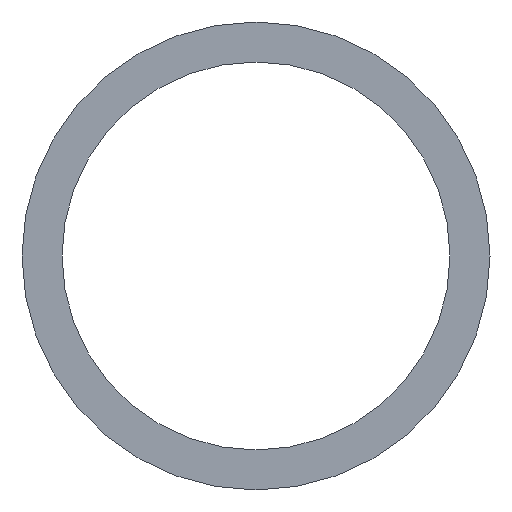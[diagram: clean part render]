
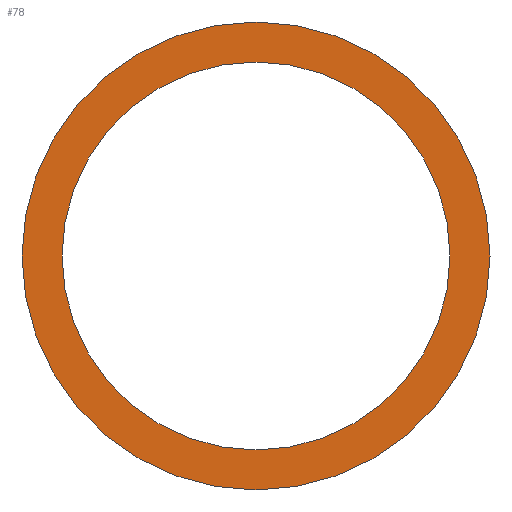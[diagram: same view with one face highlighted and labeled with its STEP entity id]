
A CAD part, front view. The second image highlights one B-rep face of the part: STEP entity #78.
In plain terms, the highlighted planar face has unit normal (0, -1, 0).
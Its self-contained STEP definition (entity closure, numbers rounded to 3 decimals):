
#4 = CARTESIAN_POINT ( 'NONE',  ( -85., 2037., 2995.85 ) ) ;
#9 = CIRCLE ( 'NONE', #187, 13.45 ) ;
#17 = CARTESIAN_POINT ( 'NONE',  ( -85., 2037., 2995.85 ) ) ;
#31 = CIRCLE ( 'NONE', #166, 13.45 ) ;
#36 = CARTESIAN_POINT ( 'NONE',  ( -73.85, 2037., 2995.85 ) ) ;
#37 = DIRECTION ( 'NONE',  ( 0., 1., 0. ) ) ;
#39 = ORIENTED_EDGE ( 'NONE', *, *, #203, .F. ) ;
#49 = EDGE_LOOP ( 'NONE', ( #192, #132 ) ) ;
#52 = DIRECTION ( 'NONE',  ( 0., 1., 0. ) ) ;
#57 = DIRECTION ( 'NONE',  ( -1., 0., 0. ) ) ;
#62 = ORIENTED_EDGE ( 'NONE', *, *, #88, .F. ) ;
#65 = EDGE_CURVE ( 'NONE', #147, #101, #117, .T. ) ;
#72 = PLANE ( 'NONE',  #198 ) ;
#74 = DIRECTION ( 'NONE',  ( 0., 1., 0. ) ) ;
#78 = ADVANCED_FACE ( 'NONE', ( #118, #109 ), #72, .F. ) ;
#82 = EDGE_LOOP ( 'NONE', ( #39, #62 ) ) ;
#87 = DIRECTION ( 'NONE',  ( 0., 1., 0. ) ) ;
#88 = EDGE_CURVE ( 'NONE', #196, #167, #9, .T. ) ;
#89 = CIRCLE ( 'NONE', #91, 11.15 ) ;
#91 = AXIS2_PLACEMENT_3D ( 'NONE', #141, #74, #57 ) ;
#101 = VERTEX_POINT ( 'NONE', #36 ) ;
#105 = CARTESIAN_POINT ( 'NONE',  ( -85., 2037., 2995.85 ) ) ;
#107 = DIRECTION ( 'NONE',  ( -1., 0., 0. ) ) ;
#108 = DIRECTION ( 'NONE',  ( -1., 0., 0. ) ) ;
#109 = FACE_BOUND ( 'NONE', #49, .T. ) ;
#117 = CIRCLE ( 'NONE', #175, 11.15 ) ;
#118 = FACE_OUTER_BOUND ( 'NONE', #82, .T. ) ;
#122 = DIRECTION ( 'NONE',  ( -1., 0., 0. ) ) ;
#126 = CARTESIAN_POINT ( 'NONE',  ( -71.55, 2037., 2995.85 ) ) ;
#132 = ORIENTED_EDGE ( 'NONE', *, *, #65, .T. ) ;
#134 = CARTESIAN_POINT ( 'NONE',  ( -85., 2037., 2995.85 ) ) ;
#139 = CARTESIAN_POINT ( 'NONE',  ( -96.15, 2037., 2995.85 ) ) ;
#141 = CARTESIAN_POINT ( 'NONE',  ( -85., 2037., 2995.85 ) ) ;
#147 = VERTEX_POINT ( 'NONE', #139 ) ;
#149 = DIRECTION ( 'NONE',  ( -1., 0., 0. ) ) ;
#154 = CARTESIAN_POINT ( 'NONE',  ( -98.45, 2037., 2995.85 ) ) ;
#166 = AXIS2_PLACEMENT_3D ( 'NONE', #4, #37, #122 ) ;
#167 = VERTEX_POINT ( 'NONE', #126 ) ;
#169 = DIRECTION ( 'NONE',  ( 0., 1., 0. ) ) ;
#175 = AXIS2_PLACEMENT_3D ( 'NONE', #17, #169, #108 ) ;
#187 = AXIS2_PLACEMENT_3D ( 'NONE', #105, #52, #107 ) ;
#192 = ORIENTED_EDGE ( 'NONE', *, *, #209, .T. ) ;
#196 = VERTEX_POINT ( 'NONE', #154 ) ;
#198 = AXIS2_PLACEMENT_3D ( 'NONE', #134, #87, #149 ) ;
#203 = EDGE_CURVE ( 'NONE', #167, #196, #31, .T. ) ;
#209 = EDGE_CURVE ( 'NONE', #101, #147, #89, .T. ) ;
